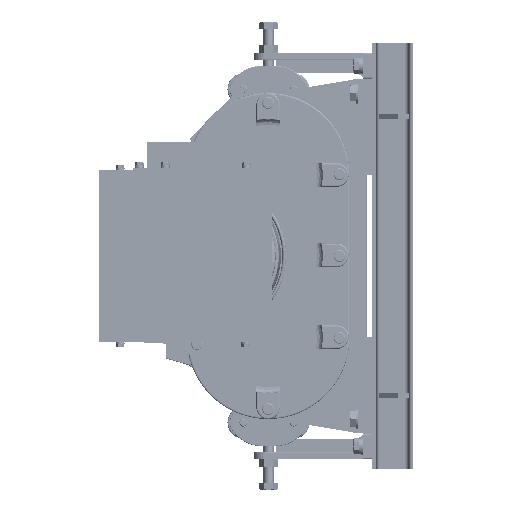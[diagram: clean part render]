
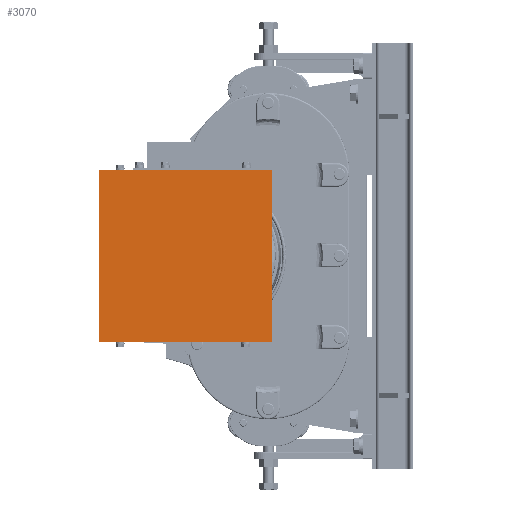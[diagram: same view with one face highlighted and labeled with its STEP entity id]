
A CAD part, left-side view. The second image highlights one B-rep face of the part: STEP entity #3070.
In plain terms, the highlighted planar face has unit normal (-1, 0, 0).
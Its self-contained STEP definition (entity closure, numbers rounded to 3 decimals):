
#3070=ADVANCED_FACE('',(#34911),#34910,.F.);
#34910=PLANE('',#100394);
#34911=FACE_OUTER_BOUND('',#100395,.T.);
#100391=CARTESIAN_POINT('',(1437.341,-6135.443,1006.659));
#100392=DIRECTION('',(1.,0.,0.));
#100393=DIRECTION('',(0.,0.,-1.));
#100394=AXIS2_PLACEMENT_3D('',#100391,#100392,#100393);
#100395=EDGE_LOOP('',(#148038,#148039,#148040,#148041,#148042,#148043));
#148038=ORIENTED_EDGE('',*,*,#176550,.F.);
#148039=ORIENTED_EDGE('',*,*,#176551,.F.);
#148040=ORIENTED_EDGE('',*,*,#176552,.F.);
#148041=ORIENTED_EDGE('',*,*,#176553,.F.);
#148042=ORIENTED_EDGE('',*,*,#176554,.F.);
#148043=ORIENTED_EDGE('',*,*,#176555,.F.);
#176550=EDGE_CURVE('',#240356,#240357,#240358,.T.);
#176551=EDGE_CURVE('',#240364,#240356,#240365,.T.);
#176552=EDGE_CURVE('',#240371,#240364,#240372,.T.);
#176553=EDGE_CURVE('',#240378,#240371,#240379,.T.);
#176554=EDGE_CURVE('',#240385,#240378,#240386,.T.);
#176555=EDGE_CURVE('',#240357,#240385,#240392,.T.);
#240356=VERTEX_POINT('',#343716);
#240357=VERTEX_POINT('',#343717);
#240358=LINE('',#343718,#343719);
#240364=VERTEX_POINT('',#343721);
#240365=LINE('',#343722,#343723);
#240371=VERTEX_POINT('',#343725);
#240372=CIRCLE('',#343729,3.6);
#240378=VERTEX_POINT('',#343730);
#240379=LINE('',#343731,#343732);
#240385=VERTEX_POINT('',#343734);
#240386=CIRCLE('',#343738,3.6);
#240392=LINE('',#343739,#343740);
#343716=CARTESIAN_POINT('',(1437.341,-6125.443,996.659));
#343717=CARTESIAN_POINT('',(1437.341,-6125.443,763.459));
#343718=CARTESIAN_POINT('',(1437.341,-6125.443,996.659));
#343719=VECTOR('',#343720,233.2);
#343720=DIRECTION('',(0.,0.,-1.));
#343721=CARTESIAN_POINT('',(1437.341,-5894.043,996.659));
#343722=CARTESIAN_POINT('',(1437.341,-5894.043,996.659));
#343723=VECTOR('',#343724,231.4);
#343724=DIRECTION('',(0.,-1.,0.));
#343725=CARTESIAN_POINT('',(1437.341,-5890.443,993.059));
#343726=CARTESIAN_POINT('',(1437.341,-5894.043,993.059));
#343727=DIRECTION('',(1.,0.,0.));
#343728=DIRECTION('',(0.,0.,1.));
#343729=AXIS2_PLACEMENT_3D('',#343726,#343727,#343728);
#343730=CARTESIAN_POINT('',(1437.341,-5890.443,767.059));
#343731=CARTESIAN_POINT('',(1437.341,-5890.443,767.059));
#343732=VECTOR('',#343733,226.);
#343733=DIRECTION('',(0.,0.,1.));
#343734=CARTESIAN_POINT('',(1437.341,-5894.043,763.459));
#343735=CARTESIAN_POINT('',(1437.341,-5894.043,767.059));
#343736=DIRECTION('',(1.,0.,0.));
#343737=DIRECTION('',(0.,0.,1.));
#343738=AXIS2_PLACEMENT_3D('',#343735,#343736,#343737);
#343739=CARTESIAN_POINT('',(1437.341,-6125.443,763.459));
#343740=VECTOR('',#343741,231.4);
#343741=DIRECTION('',(0.,1.,0.));
